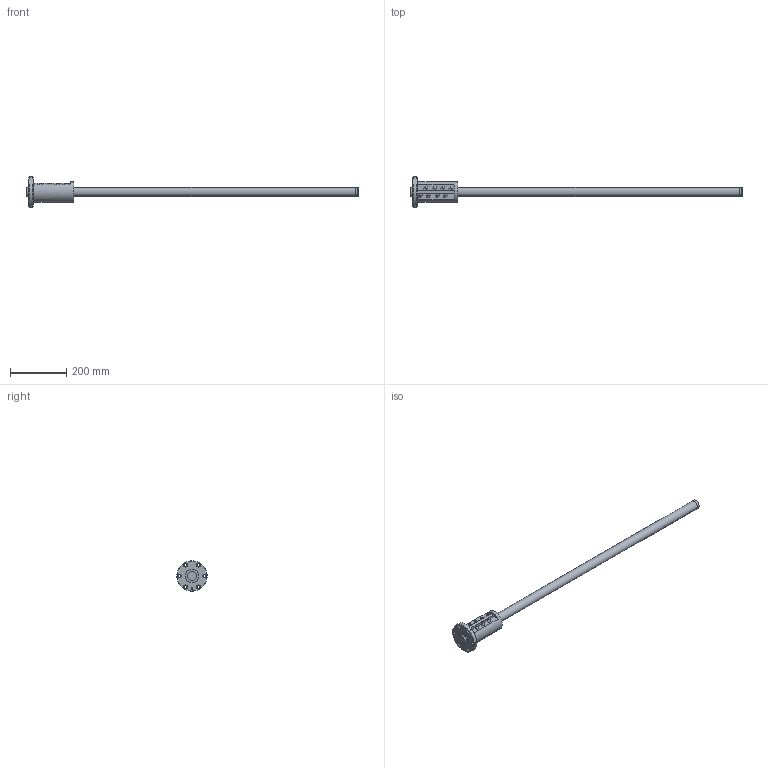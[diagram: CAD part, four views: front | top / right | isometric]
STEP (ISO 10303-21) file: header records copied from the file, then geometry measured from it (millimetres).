
FILE_DESCRIPTION( ( 'STEP AP203' ), ' ' );
FILE_NAME( 'p:/temp/worker_50/3228_2824/app_82_12018011812093793544058818fa3fd_000000_00_00_000000/format_0/BIF3210A-10RRG0+1180LC0_10000.stp', '2018-01-18T11:09:39', ( '' ), ( '' ), ' ', 'PARTsolutions', ' ' );
FILE_SCHEMA( ( 'CONFIG_CONTROL_DESIGN' ) );
Length unit declared in the file: millimetre
Products named in the file (3): BIF3210A-10RRG0+1180LC0_10000; _BIF 3210A-10RR1000500 Shaft; _BIF 3210A-10RR Nut
Assembly tree (2 placements, depth 2):
  BIF3210A-10RRG0+1180LC0_10000
    _BIF 3210A-10RR1000500 Shaft
    _BIF 3210A-10RR Nut
Bounding box: 1180 x 108 x 108 mm (x, y, z)
Volume: 1513798.6 mm3; surface area: 198414.3 mm2
Topology: 2 solids, 2 shells, 82 faces, 186 edges, 121 vertices
Faces by surface type: cylinder 39, plane 27, cone 8, torus 8
Full cylindrical faces by diameter (mm): 4.25 x2, 4.917 x1, 9 x6, 14 x6, 31.5 x2, 32 x4, 49.2 x2, 74 x1, 108 x1
Entity records: 2794 total; most frequent: CARTESIAN_POINT 931, DIRECTION 384, ORIENTED_EDGE 294, AXIS2_PLACEMENT_3D 168, EDGE_CURVE 147, EDGE_LOOP 144, VERTEX_POINT 115, FACE_OUTER_BOUND 107
